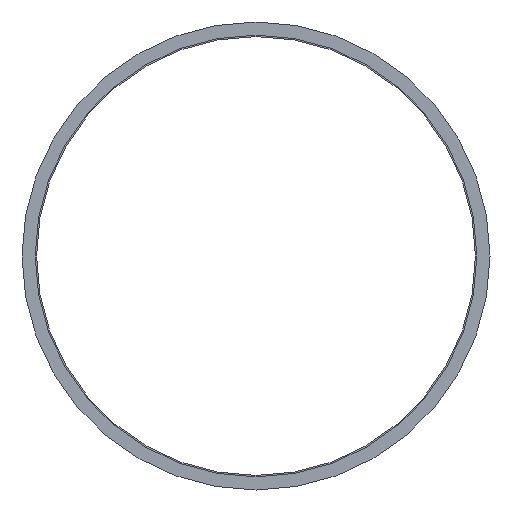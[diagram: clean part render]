
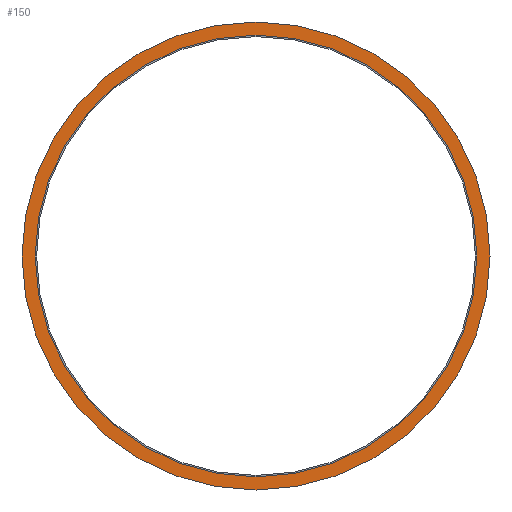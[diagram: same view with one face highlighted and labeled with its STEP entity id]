
A CAD part, front view. The second image highlights one B-rep face of the part: STEP entity #150.
In plain terms, the highlighted planar face has unit normal (0, -1, 0).
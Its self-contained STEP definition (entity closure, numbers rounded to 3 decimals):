
#7 = CARTESIAN_POINT ( 'NONE',  ( 0., 0., 345. ) ) ;
#12 = AXIS2_PLACEMENT_3D ( 'NONE', #27, #219, #173 ) ;
#17 = EDGE_CURVE ( 'NONE', #494, #514, #217, .T. ) ;
#27 = CARTESIAN_POINT ( 'NONE',  ( 0., 0., 0. ) ) ;
#36 = ORIENTED_EDGE ( 'NONE', *, *, #520, .F. ) ;
#61 = CIRCLE ( 'NONE', #12, 345. ) ;
#95 = CARTESIAN_POINT ( 'NONE',  ( 0., 0., 0. ) ) ;
#117 = ORIENTED_EDGE ( 'NONE', *, *, #580, .T. ) ;
#122 = VERTEX_POINT ( 'NONE', #7 ) ;
#150 = ADVANCED_FACE ( 'NONE', ( #159, #498 ), #210, .F. ) ;
#159 = FACE_BOUND ( 'NONE', #359, .T. ) ;
#173 = DIRECTION ( 'NONE',  ( 0., 0., -1. ) ) ;
#189 = DIRECTION ( 'NONE',  ( 0., -1., 0. ) ) ;
#195 = CARTESIAN_POINT ( 'NONE',  ( 0., 0., 0. ) ) ;
#205 = EDGE_LOOP ( 'NONE', ( #117, #586 ) ) ;
#210 = PLANE ( 'NONE',  #361 ) ;
#217 = CIRCLE ( 'NONE', #430, 325.55 ) ;
#219 = DIRECTION ( 'NONE',  ( 0., -1., 0. ) ) ;
#233 = DIRECTION ( 'NONE',  ( 0., -1., 0. ) ) ;
#239 = CARTESIAN_POINT ( 'NONE',  ( 0., 0., -345. ) ) ;
#256 = DIRECTION ( 'NONE',  ( 0., 1., 0. ) ) ;
#259 = CIRCLE ( 'NONE', #488, 345. ) ;
#304 = CIRCLE ( 'NONE', #344, 325.55 ) ;
#305 = EDGE_CURVE ( 'NONE', #122, #551, #61, .T. ) ;
#320 = DIRECTION ( 'NONE',  ( 0., 0., -1. ) ) ;
#326 = CARTESIAN_POINT ( 'NONE',  ( 0., 0., 0. ) ) ;
#344 = AXIS2_PLACEMENT_3D ( 'NONE', #195, #606, #524 ) ;
#351 = CARTESIAN_POINT ( 'NONE',  ( 0., 0., 345. ) ) ;
#359 = EDGE_LOOP ( 'NONE', ( #36, #416 ) ) ;
#361 = AXIS2_PLACEMENT_3D ( 'NONE', #351, #256, #394 ) ;
#394 = DIRECTION ( 'NONE',  ( 0., 0., 1. ) ) ;
#416 = ORIENTED_EDGE ( 'NONE', *, *, #17, .F. ) ;
#430 = AXIS2_PLACEMENT_3D ( 'NONE', #326, #233, #320 ) ;
#456 = CARTESIAN_POINT ( 'NONE',  ( 0., 0., 325.55 ) ) ;
#488 = AXIS2_PLACEMENT_3D ( 'NONE', #95, #189, #512 ) ;
#494 = VERTEX_POINT ( 'NONE', #456 ) ;
#498 = FACE_OUTER_BOUND ( 'NONE', #205, .T. ) ;
#512 = DIRECTION ( 'NONE',  ( 0., 0., -1. ) ) ;
#514 = VERTEX_POINT ( 'NONE', #516 ) ;
#516 = CARTESIAN_POINT ( 'NONE',  ( 0., 0., -325.55 ) ) ;
#520 = EDGE_CURVE ( 'NONE', #514, #494, #304, .T. ) ;
#524 = DIRECTION ( 'NONE',  ( 0., 0., -1. ) ) ;
#551 = VERTEX_POINT ( 'NONE', #239 ) ;
#580 = EDGE_CURVE ( 'NONE', #551, #122, #259, .T. ) ;
#586 = ORIENTED_EDGE ( 'NONE', *, *, #305, .T. ) ;
#606 = DIRECTION ( 'NONE',  ( 0., -1., 0. ) ) ;
